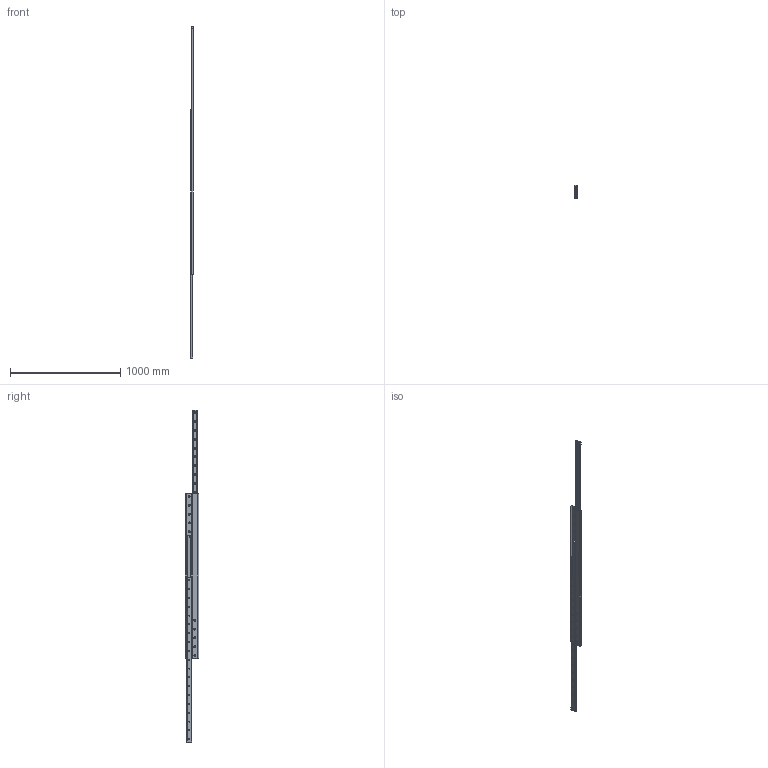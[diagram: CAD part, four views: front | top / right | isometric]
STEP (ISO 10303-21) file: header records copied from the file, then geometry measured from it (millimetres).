
FILE_DESCRIPTION(('STEP AP214'),'1');
FILE_NAME('rail_dss43-1490_01.stp','2017-04-17T03:59:24',('TraceParts'),('TraceParts S.A.'),'Spatial InterOp 3D',' ',' ');
FILE_SCHEMA(('automotive_design'));
Length unit declared in the file: millimetre
Products named in the file (3): rail_dss43-1490_01_1; rail_dss43-1490_01_2; rail_dss43-1490_01_3
Bounding box: 28 x 120 x 3006 mm (x, y, z)
Volume: 2641310.6 mm3; surface area: 1063218.3 mm2
Topology: 3 solids, 3 shells, 362 faces, 962 edges, 616 vertices
Faces by surface type: cylinder 148, plane 138, cone 76
Entity records: 11523 total; most frequent: DIRECTION 2080, CARTESIAN_POINT 1943, ORIENTED_EDGE 1924, EDGE_CURVE 962, AXIS2_PLACEMENT_3D 753, VERTEX_POINT 616, LINE 574, VECTOR 574
